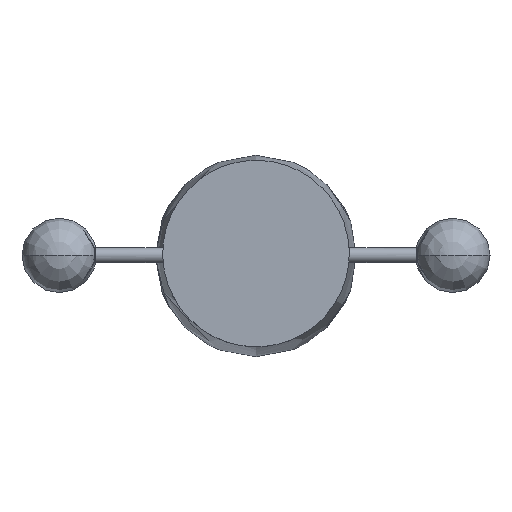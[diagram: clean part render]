
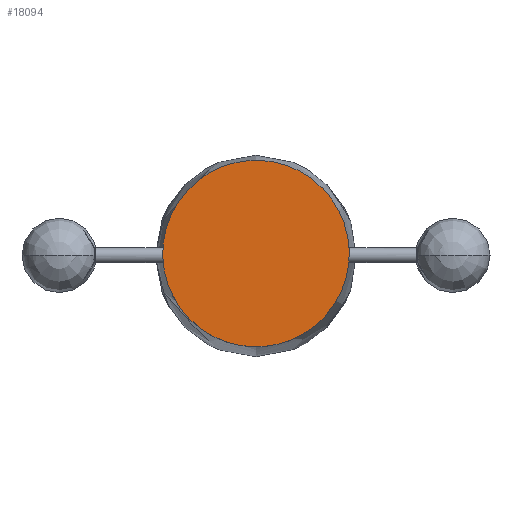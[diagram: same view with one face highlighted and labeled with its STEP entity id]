
A CAD part, top view. The second image highlights one B-rep face of the part: STEP entity #18094.
In plain terms, the highlighted free-form (B-spline) face has degree [1, 1] with [2, 2] control points.
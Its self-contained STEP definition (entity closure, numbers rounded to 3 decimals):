
#1560 = CARTESIAN_POINT ( 'NONE',  ( -2526.515, 0., 1723.438 ) ) ;
#1890 = CARTESIAN_POINT ( 'NONE',  ( -2526.515, 0., 1723.438 ) ) ;
#2877 = CARTESIAN_POINT ( 'NONE',  ( -2426.515, 0., 1723.438 ) ) ;
#3503 = VERTEX_POINT ( 'NONE', #1560 ) ;
#4932 = CARTESIAN_POINT ( 'NONE',  ( -2426.515, 0., 1723.438 ) ) ;
#7523 = ORIENTED_EDGE ( 'NONE', *, *, #25514, .F. ) ;
#8964 = CARTESIAN_POINT ( 'NONE',  ( -2414.015, -62.5, 1723.438 ) ) ;
#9525 = CARTESIAN_POINT ( 'NONE',  ( -2539.015, 62.5, 1723.438 ) ) ;
#12127 = CARTESIAN_POINT ( 'NONE',  ( -2526.515, -50., 1723.438 ) ) ;
#16309 = CARTESIAN_POINT ( 'NONE',  ( -2426.515, 0., 1723.438 ) ) ;
#18094 = ADVANCED_FACE ( 'NONE', ( #37141 ), #37896, .T. ) ;
#18571 = CARTESIAN_POINT ( 'NONE',  ( -2426.515, -50., 1723.438 ) ) ;
#19309 = CARTESIAN_POINT ( 'NONE',  ( -2476.515, 50., 1723.438 ) ) ;
#19593 = CARTESIAN_POINT ( 'NONE',  ( -2539.015, -62.5, 1723.438 ) ) ;
#21815 = CARTESIAN_POINT ( 'NONE',  ( -2476.515, -50., 1723.438 ) ) ;
#22829 = CARTESIAN_POINT ( 'NONE',  ( -2426.515, 50., 1723.438 ) ) ;
#24844 =( BOUNDED_CURVE ( )  B_SPLINE_CURVE ( 2, ( #32774, #33362, #19309, #22829, #2877 ),
 .UNSPECIFIED., .F., .F. ) 
 B_SPLINE_CURVE_WITH_KNOTS ( ( 3, 2, 3 ),
 ( 0., 0.5, 1. ),
 .UNSPECIFIED. ) 
 CURVE ( )  GEOMETRIC_REPRESENTATION_ITEM ( )  RATIONAL_B_SPLINE_CURVE ( ( 1., 0.707, 1., 0.707, 1. ) ) 
 REPRESENTATION_ITEM ( '' )  );
#25514 = EDGE_CURVE ( 'NONE', #3503, #29641, #24844, .T. ) ;
#29249 = EDGE_CURVE ( 'NONE', #29641, #3503, #32812, .T. ) ;
#29641 = VERTEX_POINT ( 'NONE', #16309 ) ;
#32774 = CARTESIAN_POINT ( 'NONE',  ( -2526.515, 0., 1723.438 ) ) ;
#32812 =( BOUNDED_CURVE ( )  B_SPLINE_CURVE ( 2, ( #4932, #18571, #21815, #12127, #1890 ),
 .UNSPECIFIED., .F., .F. ) 
 B_SPLINE_CURVE_WITH_KNOTS ( ( 3, 2, 3 ),
 ( 0., 0.5, 1. ),
 .UNSPECIFIED. ) 
 CURVE ( )  GEOMETRIC_REPRESENTATION_ITEM ( )  RATIONAL_B_SPLINE_CURVE ( ( 1., 0.707, 1., 0.707, 1. ) ) 
 REPRESENTATION_ITEM ( '' )  );
#32924 = CARTESIAN_POINT ( 'NONE',  ( -2414.015, 62.5, 1723.438 ) ) ;
#33362 = CARTESIAN_POINT ( 'NONE',  ( -2526.515, 50., 1723.438 ) ) ;
#34527 = ORIENTED_EDGE ( 'NONE', *, *, #29249, .F. ) ;
#35303 = EDGE_LOOP ( 'NONE', ( #34527, #7523 ) ) ;
#37141 = FACE_OUTER_BOUND ( 'NONE', #35303, .T. ) ;
#37896 = B_SPLINE_SURFACE_WITH_KNOTS ( 'NONE', 1, 1, ( 
 ( #19593, #9525 ),
 ( #8964, #32924 ) ),
 .UNSPECIFIED., .F., .F., .F.,
 ( 2, 2 ),
 ( 2, 2 ),
 ( -62.5, 62.5 ),
 ( -62.5, 62.5 ),
 .UNSPECIFIED. ) ;
